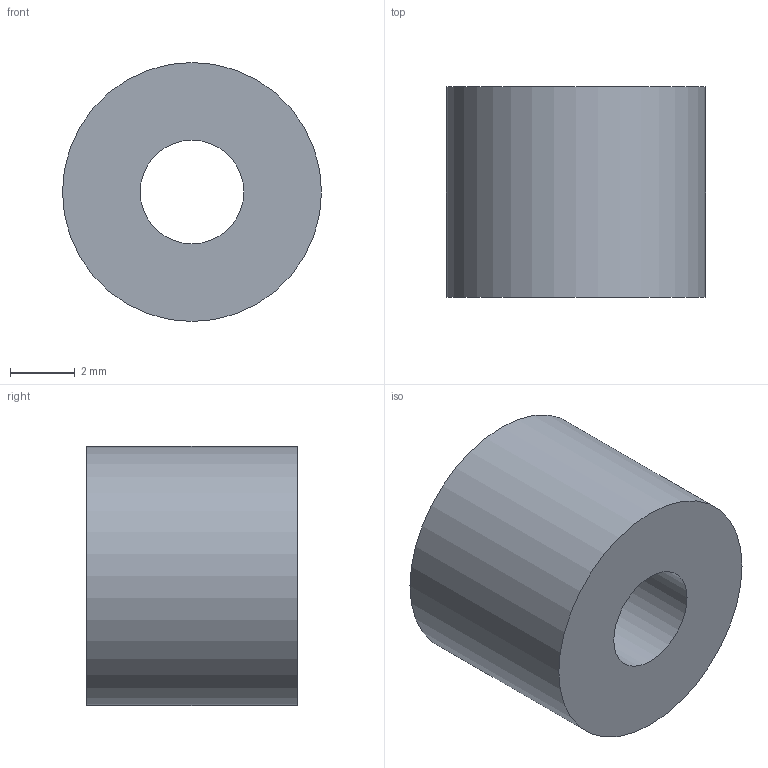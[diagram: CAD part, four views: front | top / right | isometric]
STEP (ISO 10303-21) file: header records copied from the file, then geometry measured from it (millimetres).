
FILE_DESCRIPTION(/* description */ (''),/* implementation_level */ '2;1');
FILE_NAME(/* name */ '6-13-4 Joy poti spacer.step',/* time_stamp */ '2025-05-10T22:37:29+02:00',/* author */ (''),/* organization */ (''),/* preprocessor_version */ 'ST-DEVELOPER v20.1',/* originating_system */ 'Autodesk Translation Framework v14.4.0.0',/* authorisation */ '');
FILE_SCHEMA (('AUTOMOTIVE_DESIGN { 1 0 10303 214 3 1 1 }'));
Length unit declared in the file: millimetre
Products named in the file (1): 6-13-4 Joy poti spacer
Bounding box: 8 x 6.5 x 8 mm (x, y, z)
Volume: 274.4 mm3; surface area: 313.2 mm2
Topology: 1 solids, 1 shells, 4 faces, 6 edges, 4 vertices
Faces by surface type: plane 2, cylinder 2
Full cylindrical faces by diameter (mm): 3.2 x1, 8 x1
Entity records: 138 total; most frequent: DIRECTION 20, CARTESIAN_POINT 15, ORIENTED_EDGE 12, AXIS2_PLACEMENT_3D 9, EDGE_LOOP 6, EDGE_CURVE 6, FACE_OUTER_BOUND 4, CIRCLE 4
